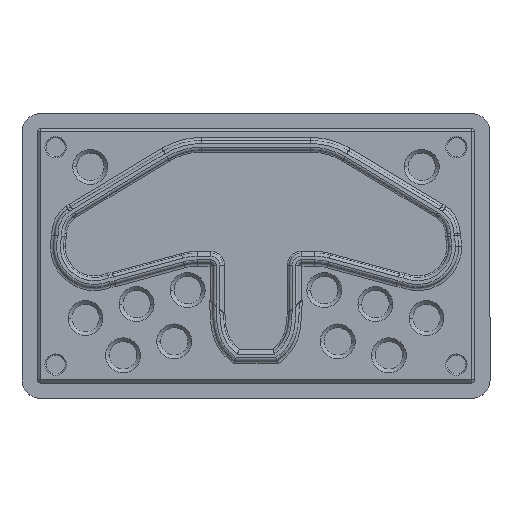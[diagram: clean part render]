
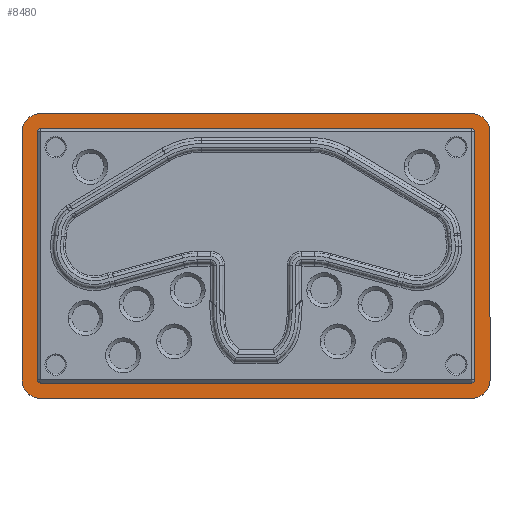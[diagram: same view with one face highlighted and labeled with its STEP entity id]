
A CAD part, top view. The second image highlights one B-rep face of the part: STEP entity #8480.
In plain terms, the highlighted planar face has unit normal (0, 0, 1).
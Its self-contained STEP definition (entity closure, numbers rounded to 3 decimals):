
#26 = ORIENTED_EDGE ( 'NONE', *, *, #8868, .T. ) ;
#57 = CIRCLE ( 'NONE', #9286, 0.5 ) ;
#101 = CARTESIAN_POINT ( 'NONE',  ( -35.712, 19.25, 5. ) ) ;
#186 = DIRECTION ( 'NONE',  ( 1., 0., 0. ) ) ;
#223 = VERTEX_POINT ( 'NONE', #4543 ) ;
#236 = CARTESIAN_POINT ( 'NONE',  ( 35.212, -21.25, 5. ) ) ;
#272 = CARTESIAN_POINT ( 'NONE',  ( -35.212, -24.25, 5. ) ) ;
#284 = FACE_OUTER_BOUND ( 'NONE', #3427, .T. ) ;
#311 = EDGE_CURVE ( 'NONE', #6831, #338, #3354, .T. ) ;
#335 = CARTESIAN_POINT ( 'NONE',  ( 35.212, -21.25, 5. ) ) ;
#338 = VERTEX_POINT ( 'NONE', #6700 ) ;
#341 = DIRECTION ( 'NONE',  ( 1., 0., 0. ) ) ;
#376 = ORIENTED_EDGE ( 'NONE', *, *, #7758, .F. ) ;
#476 = AXIS2_PLACEMENT_3D ( 'NONE', #335, #2570, #7463 ) ;
#507 = DIRECTION ( 'NONE',  ( -1., 0., 0. ) ) ;
#602 = LINE ( 'NONE', #3358, #7745 ) ;
#646 = CARTESIAN_POINT ( 'NONE',  ( 35.212, 19.25, 5. ) ) ;
#698 = LINE ( 'NONE', #5607, #3869 ) ;
#768 = VERTEX_POINT ( 'NONE', #2088 ) ;
#781 = CARTESIAN_POINT ( 'NONE',  ( 35.212, 22.25, 5. ) ) ;
#797 = CARTESIAN_POINT ( 'NONE',  ( -35.212, 22.25, 5. ) ) ;
#808 = ORIENTED_EDGE ( 'NONE', *, *, #3460, .T. ) ;
#1104 = VERTEX_POINT ( 'NONE', #797 ) ;
#1109 = EDGE_CURVE ( 'NONE', #768, #2321, #7994, .T. ) ;
#1111 = DIRECTION ( 'NONE',  ( 1., 0., 0. ) ) ;
#1116 = ORIENTED_EDGE ( 'NONE', *, *, #4820, .F. ) ;
#1266 = CARTESIAN_POINT ( 'NONE',  ( 35.212, 19.75, 5. ) ) ;
#1308 = VECTOR ( 'NONE', #3177, 1000. ) ;
#1590 = CARTESIAN_POINT ( 'NONE',  ( 35.212, 22.25, 5. ) ) ;
#1648 = DIRECTION ( 'NONE',  ( 1., 0., 0. ) ) ;
#1709 = DIRECTION ( 'NONE',  ( 0., 0., 1. ) ) ;
#1712 = AXIS2_PLACEMENT_3D ( 'NONE', #4484, #7399, #1746 ) ;
#1717 = ORIENTED_EDGE ( 'NONE', *, *, #7564, .T. ) ;
#1746 = DIRECTION ( 'NONE',  ( 1., 0., 0. ) ) ;
#1872 = DIRECTION ( 'NONE',  ( 0., 0., 1. ) ) ;
#1952 = VERTEX_POINT ( 'NONE', #2834 ) ;
#2088 = CARTESIAN_POINT ( 'NONE',  ( -35.212, 19.75, 5. ) ) ;
#2179 = DIRECTION ( 'NONE',  ( 0., -1., 0. ) ) ;
#2224 = LINE ( 'NONE', #7933, #4934 ) ;
#2247 = VECTOR ( 'NONE', #507, 1000. ) ;
#2311 = VECTOR ( 'NONE', #3773, 1000. ) ;
#2321 = VERTEX_POINT ( 'NONE', #101 ) ;
#2471 = PLANE ( 'NONE',  #3063 ) ;
#2530 = CIRCLE ( 'NONE', #5824, 3. ) ;
#2570 = DIRECTION ( 'NONE',  ( 0., 0., 1. ) ) ;
#2583 = ORIENTED_EDGE ( 'NONE', *, *, #8872, .F. ) ;
#2665 = AXIS2_PLACEMENT_3D ( 'NONE', #6660, #6007, #341 ) ;
#2740 = DIRECTION ( 'NONE',  ( 0., 0., 1. ) ) ;
#2810 = ORIENTED_EDGE ( 'NONE', *, *, #4712, .F. ) ;
#2834 = CARTESIAN_POINT ( 'NONE',  ( 35.712, 19.25, 5. ) ) ;
#2837 = LINE ( 'NONE', #1266, #2247 ) ;
#2928 = EDGE_CURVE ( 'NONE', #1104, #6980, #7621, .T. ) ;
#3063 = AXIS2_PLACEMENT_3D ( 'NONE', #236, #1709, #186 ) ;
#3177 = DIRECTION ( 'NONE',  ( 0., -1., 0. ) ) ;
#3241 = VERTEX_POINT ( 'NONE', #7831 ) ;
#3281 = VECTOR ( 'NONE', #5091, 1000. ) ;
#3300 = CARTESIAN_POINT ( 'NONE',  ( -35.212, -21.25, 5. ) ) ;
#3354 = CIRCLE ( 'NONE', #476, 0.5 ) ;
#3358 = CARTESIAN_POINT ( 'NONE',  ( 35.712, -21.25, 5. ) ) ;
#3427 = EDGE_LOOP ( 'NONE', ( #4775, #4293, #5022, #5565, #7980, #1717, #808, #26 ) ) ;
#3449 = DIRECTION ( 'NONE',  ( 1., 0., 0. ) ) ;
#3460 = EDGE_CURVE ( 'NONE', #6941, #3241, #2530, .T. ) ;
#3590 = DIRECTION ( 'NONE',  ( 0., 1., 0. ) ) ;
#3644 = ORIENTED_EDGE ( 'NONE', *, *, #311, .F. ) ;
#3663 = VERTEX_POINT ( 'NONE', #6488 ) ;
#3687 = CARTESIAN_POINT ( 'NONE',  ( -35.212, 19.25, 5. ) ) ;
#3773 = DIRECTION ( 'NONE',  ( 1., 0., 0. ) ) ;
#3774 = CARTESIAN_POINT ( 'NONE',  ( -35.212, 19.25, 5. ) ) ;
#3839 = VERTEX_POINT ( 'NONE', #6159 ) ;
#3869 = VECTOR ( 'NONE', #3590, 1000. ) ;
#3974 = CIRCLE ( 'NONE', #1712, 0.5 ) ;
#4013 = CARTESIAN_POINT ( 'NONE',  ( 38.212, -21.25, 5. ) ) ;
#4293 = ORIENTED_EDGE ( 'NONE', *, *, #4358, .T. ) ;
#4358 = EDGE_CURVE ( 'NONE', #8105, #3839, #698, .T. ) ;
#4420 = DIRECTION ( 'NONE',  ( 0., 0., 1. ) ) ;
#4445 = EDGE_CURVE ( 'NONE', #8138, #1104, #7250, .T. ) ;
#4484 = CARTESIAN_POINT ( 'NONE',  ( -35.212, -21.25, 5. ) ) ;
#4487 = DIRECTION ( 'NONE',  ( 1., 0., 0. ) ) ;
#4524 = AXIS2_PLACEMENT_3D ( 'NONE', #3687, #6556, #4487 ) ;
#4543 = CARTESIAN_POINT ( 'NONE',  ( 35.212, -24.25, 5. ) ) ;
#4610 = VECTOR ( 'NONE', #5874, 1000. ) ;
#4712 = EDGE_CURVE ( 'NONE', #4848, #768, #2837, .T. ) ;
#4775 = ORIENTED_EDGE ( 'NONE', *, *, #7272, .T. ) ;
#4820 = EDGE_CURVE ( 'NONE', #1952, #4848, #57, .T. ) ;
#4848 = VERTEX_POINT ( 'NONE', #8542 ) ;
#4934 = VECTOR ( 'NONE', #2179, 1000. ) ;
#5022 = ORIENTED_EDGE ( 'NONE', *, *, #9229, .T. ) ;
#5091 = DIRECTION ( 'NONE',  ( -1., 0., 0. ) ) ;
#5112 = EDGE_LOOP ( 'NONE', ( #8994, #2583, #376, #5991, #2810, #1116, #7708, #3644 ) ) ;
#5251 = CARTESIAN_POINT ( 'NONE',  ( -38.212, 19.25, 5. ) ) ;
#5565 = ORIENTED_EDGE ( 'NONE', *, *, #4445, .T. ) ;
#5607 = CARTESIAN_POINT ( 'NONE',  ( 38.212, -21.25, 5. ) ) ;
#5615 = LINE ( 'NONE', #8055, #4610 ) ;
#5742 = DIRECTION ( 'NONE',  ( 1., 0., 0. ) ) ;
#5824 = AXIS2_PLACEMENT_3D ( 'NONE', #3300, #1872, #1111 ) ;
#5874 = DIRECTION ( 'NONE',  ( 1., 0., 0. ) ) ;
#5991 = ORIENTED_EDGE ( 'NONE', *, *, #1109, .F. ) ;
#6000 = FACE_BOUND ( 'NONE', #5112, .T. ) ;
#6007 = DIRECTION ( 'NONE',  ( 0., 0., 1. ) ) ;
#6159 = CARTESIAN_POINT ( 'NONE',  ( 38.212, 19.25, 5. ) ) ;
#6165 = CARTESIAN_POINT ( 'NONE',  ( -38.212, -21.25, 5. ) ) ;
#6488 = CARTESIAN_POINT ( 'NONE',  ( -35.212, -21.75, 5. ) ) ;
#6524 = AXIS2_PLACEMENT_3D ( 'NONE', #646, #4420, #5742 ) ;
#6556 = DIRECTION ( 'NONE',  ( 0., 0., 1. ) ) ;
#6660 = CARTESIAN_POINT ( 'NONE',  ( 35.212, -21.25, 5. ) ) ;
#6700 = CARTESIAN_POINT ( 'NONE',  ( 35.712, -21.25, 5. ) ) ;
#6705 = CIRCLE ( 'NONE', #2665, 3. ) ;
#6762 = CARTESIAN_POINT ( 'NONE',  ( -38.212, 19.25, 5. ) ) ;
#6825 = LINE ( 'NONE', #272, #2311 ) ;
#6831 = VERTEX_POINT ( 'NONE', #7342 ) ;
#6839 = EDGE_CURVE ( 'NONE', #3663, #6831, #5615, .T. ) ;
#6941 = VERTEX_POINT ( 'NONE', #6165 ) ;
#6980 = VERTEX_POINT ( 'NONE', #6762 ) ;
#7138 = CARTESIAN_POINT ( 'NONE',  ( -35.712, -21.25, 5. ) ) ;
#7250 = LINE ( 'NONE', #1590, #3281 ) ;
#7272 = EDGE_CURVE ( 'NONE', #223, #8105, #6705, .T. ) ;
#7342 = CARTESIAN_POINT ( 'NONE',  ( 35.212, -21.75, 5. ) ) ;
#7369 = LINE ( 'NONE', #5251, #1308 ) ;
#7399 = DIRECTION ( 'NONE',  ( 0., 0., 1. ) ) ;
#7463 = DIRECTION ( 'NONE',  ( 1., 0., 0. ) ) ;
#7564 = EDGE_CURVE ( 'NONE', #6980, #6941, #7369, .T. ) ;
#7621 = CIRCLE ( 'NONE', #8382, 3. ) ;
#7708 = ORIENTED_EDGE ( 'NONE', *, *, #9054, .F. ) ;
#7745 = VECTOR ( 'NONE', #9163, 1000. ) ;
#7758 = EDGE_CURVE ( 'NONE', #2321, #8365, #2224, .T. ) ;
#7831 = CARTESIAN_POINT ( 'NONE',  ( -35.212, -24.25, 5. ) ) ;
#7933 = CARTESIAN_POINT ( 'NONE',  ( -35.712, 19.25, 5. ) ) ;
#7980 = ORIENTED_EDGE ( 'NONE', *, *, #2928, .T. ) ;
#7994 = CIRCLE ( 'NONE', #4524, 0.5 ) ;
#8055 = CARTESIAN_POINT ( 'NONE',  ( -35.212, -21.75, 5. ) ) ;
#8105 = VERTEX_POINT ( 'NONE', #4013 ) ;
#8138 = VERTEX_POINT ( 'NONE', #781 ) ;
#8365 = VERTEX_POINT ( 'NONE', #7138 ) ;
#8382 = AXIS2_PLACEMENT_3D ( 'NONE', #3774, #8732, #1648 ) ;
#8480 = ADVANCED_FACE ( 'NONE', ( #6000, #284 ), #2471, .T. ) ;
#8542 = CARTESIAN_POINT ( 'NONE',  ( 35.212, 19.75, 5. ) ) ;
#8732 = DIRECTION ( 'NONE',  ( 0., 0., 1. ) ) ;
#8868 = EDGE_CURVE ( 'NONE', #3241, #223, #6825, .T. ) ;
#8872 = EDGE_CURVE ( 'NONE', #8365, #3663, #3974, .T. ) ;
#8994 = ORIENTED_EDGE ( 'NONE', *, *, #6839, .F. ) ;
#9054 = EDGE_CURVE ( 'NONE', #338, #1952, #602, .T. ) ;
#9112 = CIRCLE ( 'NONE', #6524, 3. ) ;
#9163 = DIRECTION ( 'NONE',  ( 0., 1., 0. ) ) ;
#9202 = CARTESIAN_POINT ( 'NONE',  ( 35.212, 19.25, 5. ) ) ;
#9229 = EDGE_CURVE ( 'NONE', #3839, #8138, #9112, .T. ) ;
#9286 = AXIS2_PLACEMENT_3D ( 'NONE', #9202, #2740, #3449 ) ;
